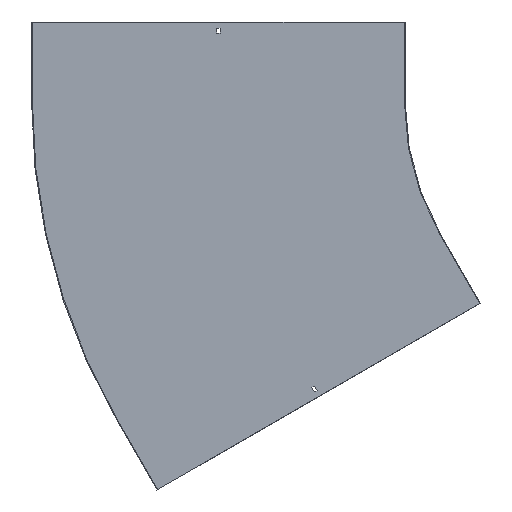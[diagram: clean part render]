
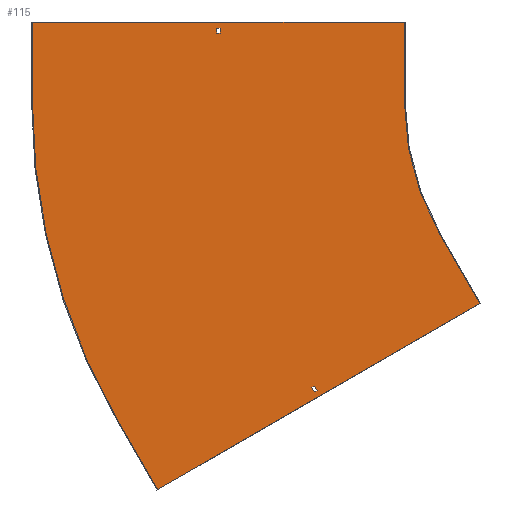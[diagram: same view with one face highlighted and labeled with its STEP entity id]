
A CAD part, front view. The second image highlights one B-rep face of the part: STEP entity #115.
In plain terms, the highlighted planar face has unit normal (0, -1, 0).
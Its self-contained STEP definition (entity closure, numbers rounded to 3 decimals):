
#4 = DIRECTION ( 'NONE',  ( -0.866, 0., -0.5 ) ) ;
#14 = LINE ( 'NONE', #94, #834 ) ;
#15 = CARTESIAN_POINT ( 'NONE',  ( 69., -1.5, -119.512 ) ) ;
#17 = CARTESIAN_POINT ( 'NONE',  ( -500., -1.5, 150. ) ) ;
#18 = DIRECTION ( 'NONE',  ( 0., 0., 1. ) ) ;
#20 = VECTOR ( 'NONE', #4, 1000. ) ;
#21 = PLANE ( 'NONE',  #587 ) ;
#26 = DIRECTION ( 'NONE',  ( -0.866, 0., -0.5 ) ) ;
#29 = EDGE_CURVE ( 'NONE', #331, #163, #456, .T. ) ;
#32 = DIRECTION ( 'NONE',  ( 0., -1., 0. ) ) ;
#49 = VERTEX_POINT ( 'NONE', #529 ) ;
#61 = EDGE_CURVE ( 'NONE', #792, #197, #715, .T. ) ;
#64 = CARTESIAN_POINT ( 'NONE',  ( -433.013, -1.5, -250. ) ) ;
#80 = CARTESIAN_POINT ( 'NONE',  ( -964.23, -1.5, -729.904 ) ) ;
#94 = CARTESIAN_POINT ( 'NONE',  ( -433.013, -1.5, -250. ) ) ;
#96 = VERTEX_POINT ( 'NONE', #291 ) ;
#99 = ORIENTED_EDGE ( 'NONE', *, *, #740, .T. ) ;
#108 = LINE ( 'NONE', #369, #738 ) ;
#115 = ADVANCED_FACE ( 'NONE', ( #359, #613, #285 ), #21, .T. ) ;
#123 = DIRECTION ( 'NONE',  ( 1., 0., 0. ) ) ;
#133 = VECTOR ( 'NONE', #123, 1000. ) ;
#138 = CARTESIAN_POINT ( 'NONE',  ( -1039.23, -1.5, -600. ) ) ;
#146 = VERTEX_POINT ( 'NONE', #17 ) ;
#155 = DIRECTION ( 'NONE',  ( 0., 0., -1. ) ) ;
#163 = VERTEX_POINT ( 'NONE', #482 ) ;
#176 = CARTESIAN_POINT ( 'NONE',  ( 0., -1.5, 129. ) ) ;
#183 = ORIENTED_EDGE ( 'NONE', *, *, #718, .F. ) ;
#186 = CARTESIAN_POINT ( 'NONE',  ( -846.75, -1.5, 129. ) ) ;
#189 = VECTOR ( 'NONE', #831, 1000. ) ;
#197 = VERTEX_POINT ( 'NONE', #671 ) ;
#204 = VECTOR ( 'NONE', #155, 1000. ) ;
#210 = CARTESIAN_POINT ( 'NONE',  ( -738.936, -1.5, -426.625 ) ) ;
#211 = VERTEX_POINT ( 'NONE', #225 ) ;
#212 = CARTESIAN_POINT ( 'NONE',  ( -674.436, -1.5, -538.342 ) ) ;
#217 = CARTESIAN_POINT ( 'NONE',  ( -500., -1.5, 0. ) ) ;
#225 = CARTESIAN_POINT ( 'NONE',  ( -853.25, -1.5, 129. ) ) ;
#229 = VERTEX_POINT ( 'NONE', #212 ) ;
#232 = LINE ( 'NONE', #176, #473 ) ;
#234 = VERTEX_POINT ( 'NONE', #64 ) ;
#238 = DIRECTION ( 'NONE',  ( 1., 0., 0. ) ) ;
#239 = ORIENTED_EDGE ( 'NONE', *, *, #455, .F. ) ;
#243 = EDGE_CURVE ( 'NONE', #536, #659, #346, .T. ) ;
#245 = CARTESIAN_POINT ( 'NONE',  ( -1200., -1.5, 150. ) ) ;
#259 = LINE ( 'NONE', #462, #133 ) ;
#264 = ORIENTED_EDGE ( 'NONE', *, *, #243, .F. ) ;
#265 = AXIS2_PLACEMENT_3D ( 'NONE', #288, #32, #310 ) ;
#275 = EDGE_CURVE ( 'NONE', #49, #848, #108, .T. ) ;
#280 = DIRECTION ( 'NONE',  ( 0., 0., -1. ) ) ;
#285 = FACE_BOUND ( 'NONE', #371, .T. ) ;
#288 = CARTESIAN_POINT ( 'NONE',  ( 0., -1.5, 0. ) ) ;
#290 = EDGE_CURVE ( 'NONE', #659, #792, #634, .T. ) ;
#291 = CARTESIAN_POINT ( 'NONE',  ( -669.936, -1.5, -546.137 ) ) ;
#295 = LINE ( 'NONE', #746, #664 ) ;
#297 = VECTOR ( 'NONE', #438, 1000. ) ;
#309 = EDGE_CURVE ( 'NONE', #499, #211, #232, .T. ) ;
#310 = DIRECTION ( 'NONE',  ( 0., 0., -1. ) ) ;
#321 = ORIENTED_EDGE ( 'NONE', *, *, #709, .F. ) ;
#331 = VERTEX_POINT ( 'NONE', #736 ) ;
#346 = LINE ( 'NONE', #423, #20 ) ;
#347 = CIRCLE ( 'NONE', #265, 500. ) ;
#359 = FACE_BOUND ( 'NONE', #666, .T. ) ;
#369 = CARTESIAN_POINT ( 'NONE',  ( 0., -1.5, 138. ) ) ;
#371 = EDGE_LOOP ( 'NONE', ( #844, #511, #839, #99 ) ) ;
#390 = CARTESIAN_POINT ( 'NONE',  ( -358.013, -1.5, -379.904 ) ) ;
#399 = CARTESIAN_POINT ( 'NONE',  ( 0., -1.5, 0. ) ) ;
#400 = ORIENTED_EDGE ( 'NONE', *, *, #290, .F. ) ;
#402 = DIRECTION ( 'NONE',  ( 0., 1., 0. ) ) ;
#409 = LINE ( 'NONE', #210, #578 ) ;
#419 = CARTESIAN_POINT ( 'NONE',  ( 64.5, -1.5, -111.717 ) ) ;
#423 = CARTESIAN_POINT ( 'NONE',  ( -356.714, -1.5, -379.154 ) ) ;
#426 = DIRECTION ( 'NONE',  ( 0., 0., -1. ) ) ;
#435 = VECTOR ( 'NONE', #26, 1000. ) ;
#438 = DIRECTION ( 'NONE',  ( 0., 0., 1. ) ) ;
#444 = CARTESIAN_POINT ( 'NONE',  ( -964.23, -1.5, -729.904 ) ) ;
#447 = DIRECTION ( 'NONE',  ( -1., 0., 0. ) ) ;
#452 = EDGE_CURVE ( 'NONE', #146, #717, #563, .T. ) ;
#453 = ORIENTED_EDGE ( 'NONE', *, *, #61, .F. ) ;
#455 = EDGE_CURVE ( 'NONE', #96, #331, #617, .T. ) ;
#456 = LINE ( 'NONE', #650, #662 ) ;
#460 = ORIENTED_EDGE ( 'NONE', *, *, #623, .F. ) ;
#462 = CARTESIAN_POINT ( 'NONE',  ( -1201.5, -1.5, 150. ) ) ;
#473 = VECTOR ( 'NONE', #447, 1000. ) ;
#482 = CARTESIAN_POINT ( 'NONE',  ( -668.807, -1.5, -535.092 ) ) ;
#483 = CARTESIAN_POINT ( 'NONE',  ( -500., -1.5, 150. ) ) ;
#492 = CARTESIAN_POINT ( 'NONE',  ( 0., -1.5, 0. ) ) ;
#499 = VERTEX_POINT ( 'NONE', #186 ) ;
#511 = ORIENTED_EDGE ( 'NONE', *, *, #728, .T. ) ;
#529 = CARTESIAN_POINT ( 'NONE',  ( -853.25, -1.5, 138. ) ) ;
#532 = AXIS2_PLACEMENT_3D ( 'NONE', #399, #402, #601 ) ;
#533 = VECTOR ( 'NONE', #280, 1000. ) ;
#536 = VERTEX_POINT ( 'NONE', #390 ) ;
#563 = LINE ( 'NONE', #483, #533 ) ;
#569 = LINE ( 'NONE', #823, #204 ) ;
#571 = ORIENTED_EDGE ( 'NONE', *, *, #452, .F. ) ;
#578 = VECTOR ( 'NONE', #732, 1000. ) ;
#583 = EDGE_CURVE ( 'NONE', #838, #146, #259, .T. ) ;
#586 = ORIENTED_EDGE ( 'NONE', *, *, #583, .F. ) ;
#587 = AXIS2_PLACEMENT_3D ( 'NONE', #492, #744, #426 ) ;
#597 = DIRECTION ( 'NONE',  ( -0.5, 0., 0.866 ) ) ;
#601 = DIRECTION ( 'NONE',  ( 0., 0., -1. ) ) ;
#613 = FACE_OUTER_BOUND ( 'NONE', #764, .T. ) ;
#617 = LINE ( 'NONE', #15, #812 ) ;
#623 = EDGE_CURVE ( 'NONE', #229, #96, #409, .T. ) ;
#625 = ORIENTED_EDGE ( 'NONE', *, *, #763, .F. ) ;
#634 = LINE ( 'NONE', #444, #189 ) ;
#650 = CARTESIAN_POINT ( 'NONE',  ( -733.307, -1.5, -423.375 ) ) ;
#659 = VERTEX_POINT ( 'NONE', #80 ) ;
#662 = VECTOR ( 'NONE', #597, 1000. ) ;
#664 = VECTOR ( 'NONE', #18, 1000. ) ;
#666 = EDGE_LOOP ( 'NONE', ( #711, #239, #460, #183 ) ) ;
#671 = CARTESIAN_POINT ( 'NONE',  ( -1200., -1.5, 0. ) ) ;
#674 = ORIENTED_EDGE ( 'NONE', *, *, #754, .F. ) ;
#685 = DIRECTION ( 'NONE',  ( 0.5, 0., -0.866 ) ) ;
#691 = LINE ( 'NONE', #419, #435 ) ;
#700 = CARTESIAN_POINT ( 'NONE',  ( -853.25, -1.5, 0. ) ) ;
#709 = EDGE_CURVE ( 'NONE', #197, #838, #295, .T. ) ;
#711 = ORIENTED_EDGE ( 'NONE', *, *, #29, .F. ) ;
#715 = CIRCLE ( 'NONE', #532, 1200. ) ;
#717 = VERTEX_POINT ( 'NONE', #217 ) ;
#718 = EDGE_CURVE ( 'NONE', #163, #229, #691, .T. ) ;
#728 = EDGE_CURVE ( 'NONE', #848, #499, #569, .T. ) ;
#732 = DIRECTION ( 'NONE',  ( 0.5, 0., -0.866 ) ) ;
#736 = CARTESIAN_POINT ( 'NONE',  ( -664.307, -1.5, -542.887 ) ) ;
#738 = VECTOR ( 'NONE', #238, 1000. ) ;
#740 = EDGE_CURVE ( 'NONE', #211, #49, #752, .T. ) ;
#744 = DIRECTION ( 'NONE',  ( 0., -1., 0. ) ) ;
#746 = CARTESIAN_POINT ( 'NONE',  ( -1200., -1.5, 0. ) ) ;
#752 = LINE ( 'NONE', #700, #297 ) ;
#754 = EDGE_CURVE ( 'NONE', #234, #536, #14, .T. ) ;
#761 = CARTESIAN_POINT ( 'NONE',  ( -846.75, -1.5, 138. ) ) ;
#763 = EDGE_CURVE ( 'NONE', #717, #234, #347, .T. ) ;
#764 = EDGE_LOOP ( 'NONE', ( #586, #321, #453, #400, #264, #674, #625, #571 ) ) ;
#792 = VERTEX_POINT ( 'NONE', #138 ) ;
#812 = VECTOR ( 'NONE', #818, 1000. ) ;
#818 = DIRECTION ( 'NONE',  ( 0.866, 0., 0.5 ) ) ;
#823 = CARTESIAN_POINT ( 'NONE',  ( -846.75, -1.5, 0. ) ) ;
#831 = DIRECTION ( 'NONE',  ( -0.5, 0., 0.866 ) ) ;
#834 = VECTOR ( 'NONE', #685, 1000. ) ;
#838 = VERTEX_POINT ( 'NONE', #245 ) ;
#839 = ORIENTED_EDGE ( 'NONE', *, *, #309, .T. ) ;
#844 = ORIENTED_EDGE ( 'NONE', *, *, #275, .T. ) ;
#848 = VERTEX_POINT ( 'NONE', #761 ) ;
